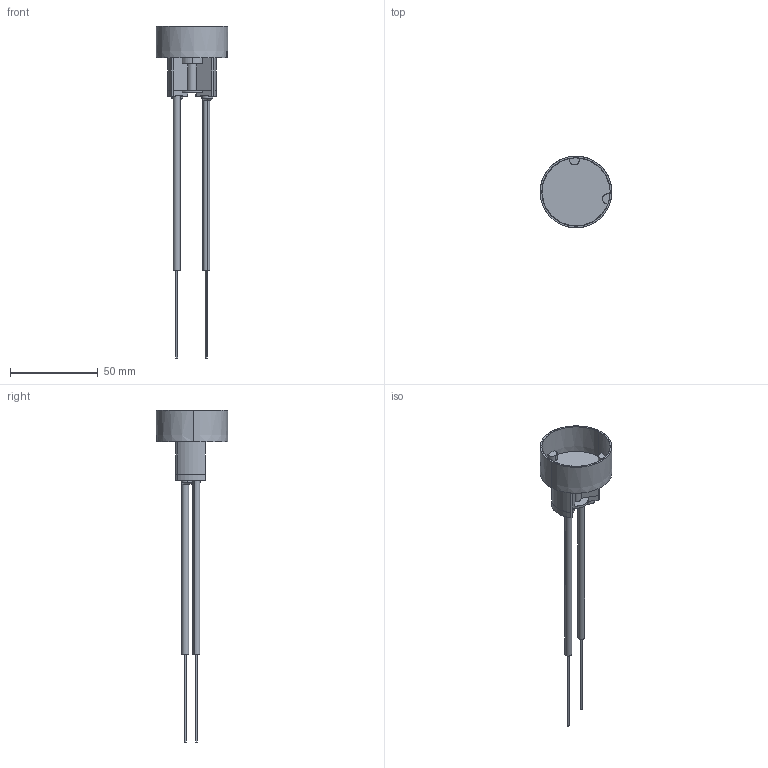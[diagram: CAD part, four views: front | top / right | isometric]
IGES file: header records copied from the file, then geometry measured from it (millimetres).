
Start section: SolidWorks IGES file using analytic representation for surfaces
Global section: file name: C:\Users\Toshiba\Desktop\FR-10PRO.IGS; native system: SolidWorks 2014; preprocessor: SolidWorks 2014; author: Toshiba; date: 160621.083524; units: metre
Bounding box: 40.98 x 40.98 x 189.7 mm (x, y, z)
Surface area: 14308.8 mm2 (no closed solid volume)
Topology: 0 solids, 0 shells, 163 faces, 2162 edges, 2162 vertices
Faces by surface type: bspline 85, revolution 78
